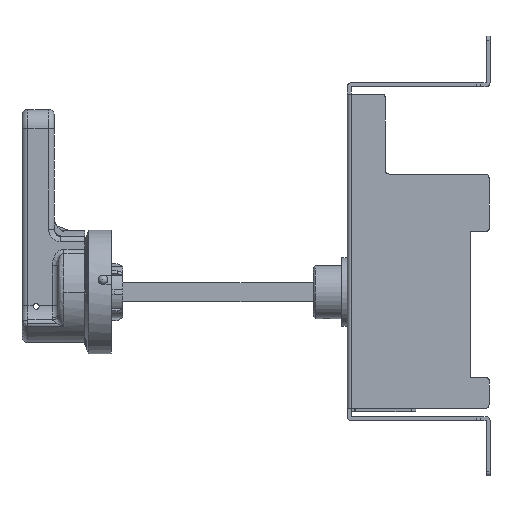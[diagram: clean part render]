
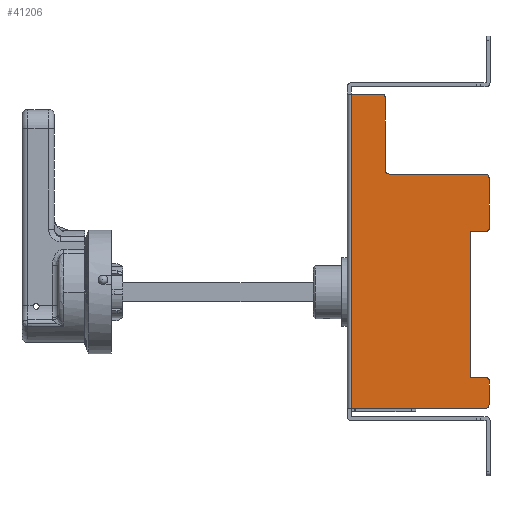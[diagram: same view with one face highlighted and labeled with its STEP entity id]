
A CAD part, left-side view. The second image highlights one B-rep face of the part: STEP entity #41206.
In plain terms, the highlighted planar face has unit normal (-1, 0, 0).
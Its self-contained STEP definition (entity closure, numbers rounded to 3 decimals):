
#48 = DIRECTION ( 'NONE',  ( -1., 0., 0. ) ) ;
#205 = LINE ( 'NONE', #5844, #14843 ) ;
#287 = CARTESIAN_POINT ( 'NONE',  ( -65.733, 55.395, -24.266 ) ) ;
#489 = CARTESIAN_POINT ( 'NONE',  ( -65.733, 65.395, 53.934 ) ) ;
#1196 = ORIENTED_EDGE ( 'NONE', *, *, #2043, .T. ) ;
#1232 = CARTESIAN_POINT ( 'NONE',  ( -65.733, 65.395, -23.266 ) ) ;
#1795 = VECTOR ( 'NONE', #11530, 1000. ) ;
#1844 = AXIS2_PLACEMENT_3D ( 'NONE', #28647, #10816, #23782 ) ;
#2043 = EDGE_CURVE ( 'NONE', #41134, #13601, #31372, .T. ) ;
#2194 = DIRECTION ( 'NONE',  ( 1., 0., 0. ) ) ;
#3037 = CARTESIAN_POINT ( 'NONE',  ( -65.733, 57.395, -39.266 ) ) ;
#3482 = CARTESIAN_POINT ( 'NONE',  ( -65.733, 107.895, 83.934 ) ) ;
#3658 = ORIENTED_EDGE ( 'NONE', *, *, #38445, .T. ) ;
#4425 = ORIENTED_EDGE ( 'NONE', *, *, #45647, .T. ) ;
#4443 = CARTESIAN_POINT ( 'NONE',  ( -65.733, 55.395, -39.266 ) ) ;
#5844 = CARTESIAN_POINT ( 'NONE',  ( -65.733, 55.395, -39.266 ) ) ;
#7267 = VECTOR ( 'NONE', #44374, 1000. ) ;
#7430 = CARTESIAN_POINT ( 'NONE',  ( -65.733, 55.395, -23.266 ) ) ;
#7611 = ORIENTED_EDGE ( 'NONE', *, *, #45710, .T. ) ;
#9010 = CARTESIAN_POINT ( 'NONE',  ( -65.733, 111.895, 125.934 ) ) ;
#9101 = CARTESIAN_POINT ( 'NONE',  ( -65.733, 55.395, -37.266 ) ) ;
#9269 = VECTOR ( 'NONE', #48607, 1000. ) ;
#9328 = CARTESIAN_POINT ( 'NONE',  ( -65.733, 57.395, 83.934 ) ) ;
#9342 = DIRECTION ( 'NONE',  ( 0., 1., 0. ) ) ;
#9359 = VERTEX_POINT ( 'NONE', #37085 ) ;
#9367 = CARTESIAN_POINT ( 'NONE',  ( -65.733, 109.895, 123.934 ) ) ;
#9804 = VERTEX_POINT ( 'NONE', #21083 ) ;
#9920 = ORIENTED_EDGE ( 'NONE', *, *, #17988, .T. ) ;
#10816 = DIRECTION ( 'NONE',  ( -1., 0., 0. ) ) ;
#11068 = EDGE_CURVE ( 'NONE', #19625, #13601, #31860, .T. ) ;
#11212 = EDGE_CURVE ( 'NONE', #40410, #41134, #21799, .T. ) ;
#11387 = EDGE_CURVE ( 'NONE', #20472, #37978, #205, .T. ) ;
#11530 = DIRECTION ( 'NONE',  ( 0., -1., 0. ) ) ;
#12207 = VECTOR ( 'NONE', #19150, 1000. ) ;
#12704 = DIRECTION ( 'NONE',  ( 0., 0., -1. ) ) ;
#13601 = VERTEX_POINT ( 'NONE', #9328 ) ;
#14397 = DIRECTION ( 'NONE',  ( -1., 0., 0. ) ) ;
#14843 = VECTOR ( 'NONE', #40838, 1000. ) ;
#14954 = VECTOR ( 'NONE', #25104, 1000. ) ;
#15520 = DIRECTION ( 'NONE',  ( 0., 1., 0. ) ) ;
#17988 = EDGE_CURVE ( 'NONE', #9804, #34192, #28466, .T. ) ;
#18612 = DIRECTION ( 'NONE',  ( -1., 0., 0. ) ) ;
#18780 = EDGE_CURVE ( 'NONE', #37978, #9359, #49141, .T. ) ;
#19150 = DIRECTION ( 'NONE',  ( 0., 1., 0. ) ) ;
#19625 = VERTEX_POINT ( 'NONE', #3482 ) ;
#20472 = VERTEX_POINT ( 'NONE', #9101 ) ;
#20774 = CARTESIAN_POINT ( 'NONE',  ( -65.733, 55.395, 53.934 ) ) ;
#21083 = CARTESIAN_POINT ( 'NONE',  ( -65.733, 127.895, 125.934 ) ) ;
#21543 = PLANE ( 'NONE',  #33324 ) ;
#21582 = VERTEX_POINT ( 'NONE', #35042 ) ;
#21799 = LINE ( 'NONE', #28276, #9269 ) ;
#21807 = DIRECTION ( 'NONE',  ( 0., 0., -1. ) ) ;
#22827 = CARTESIAN_POINT ( 'NONE',  ( -65.733, 55.395, 54.934 ) ) ;
#23782 = DIRECTION ( 'NONE',  ( 0., 0., -1. ) ) ;
#24023 = ORIENTED_EDGE ( 'NONE', *, *, #37078, .T. ) ;
#24109 = CARTESIAN_POINT ( 'NONE',  ( -65.733, 107.895, 85.934 ) ) ;
#24459 = EDGE_CURVE ( 'NONE', #34408, #44704, #31314, .T. ) ;
#24609 = ORIENTED_EDGE ( 'NONE', *, *, #11387, .T. ) ;
#25104 = DIRECTION ( 'NONE',  ( 0., 1., 0. ) ) ;
#25277 = AXIS2_PLACEMENT_3D ( 'NONE', #37440, #48, #27658 ) ;
#25481 = ORIENTED_EDGE ( 'NONE', *, *, #11068, .F. ) ;
#25721 = CARTESIAN_POINT ( 'NONE',  ( -65.733, 56.395, 54.934 ) ) ;
#25933 = DIRECTION ( 'NONE',  ( 0., 0., -1. ) ) ;
#26055 = CARTESIAN_POINT ( 'NONE',  ( -65.733, 56.395, 53.934 ) ) ;
#26381 = FACE_OUTER_BOUND ( 'NONE', #44225, .T. ) ;
#26559 = AXIS2_PLACEMENT_3D ( 'NONE', #25721, #14397, #42860 ) ;
#27658 = DIRECTION ( 'NONE',  ( 0., 0., -1. ) ) ;
#27692 = AXIS2_PLACEMENT_3D ( 'NONE', #24109, #2194, #31433 ) ;
#28100 = LINE ( 'NONE', #36220, #7267 ) ;
#28276 = CARTESIAN_POINT ( 'NONE',  ( -65.733, 55.395, -39.266 ) ) ;
#28396 = CARTESIAN_POINT ( 'NONE',  ( -65.733, 56.395, -24.266 ) ) ;
#28466 = LINE ( 'NONE', #39849, #49470 ) ;
#28647 = CARTESIAN_POINT ( 'NONE',  ( -65.733, 57.395, 81.934 ) ) ;
#29296 = CARTESIAN_POINT ( 'NONE',  ( -65.733, 55.395, -39.266 ) ) ;
#29995 = CARTESIAN_POINT ( 'NONE',  ( -65.733, 127.895, -39.266 ) ) ;
#30320 = CARTESIAN_POINT ( 'NONE',  ( -65.733, 55.395, 81.934 ) ) ;
#31314 = LINE ( 'NONE', #20774, #12207 ) ;
#31372 = CIRCLE ( 'NONE', #1844, 2. ) ;
#31433 = DIRECTION ( 'NONE',  ( 0., 0., -1. ) ) ;
#31860 = LINE ( 'NONE', #41604, #1795 ) ;
#32299 = EDGE_CURVE ( 'NONE', #19625, #21582, #43591, .T. ) ;
#32908 = DIRECTION ( 'NONE',  ( -1., 0., 0. ) ) ;
#33324 = AXIS2_PLACEMENT_3D ( 'NONE', #4443, #32908, #9342 ) ;
#33417 = VERTEX_POINT ( 'NONE', #9367 ) ;
#33606 = ORIENTED_EDGE ( 'NONE', *, *, #11212, .T. ) ;
#34192 = VERTEX_POINT ( 'NONE', #29995 ) ;
#34408 = VERTEX_POINT ( 'NONE', #26055 ) ;
#34685 = ORIENTED_EDGE ( 'NONE', *, *, #18780, .T. ) ;
#35042 = CARTESIAN_POINT ( 'NONE',  ( -65.733, 109.895, 85.934 ) ) ;
#35870 = DIRECTION ( 'NONE',  ( 0., -1., 0. ) ) ;
#36220 = CARTESIAN_POINT ( 'NONE',  ( -65.733, 109.895, 83.934 ) ) ;
#36322 = VERTEX_POINT ( 'NONE', #1232 ) ;
#36363 = ORIENTED_EDGE ( 'NONE', *, *, #40408, .F. ) ;
#36952 = ORIENTED_EDGE ( 'NONE', *, *, #44012, .F. ) ;
#37078 = EDGE_CURVE ( 'NONE', #37224, #9804, #40578, .T. ) ;
#37085 = CARTESIAN_POINT ( 'NONE',  ( -65.733, 56.395, -23.266 ) ) ;
#37224 = VERTEX_POINT ( 'NONE', #9010 ) ;
#37432 = LINE ( 'NONE', #29296, #46505 ) ;
#37440 = CARTESIAN_POINT ( 'NONE',  ( -65.733, 111.895, 123.934 ) ) ;
#37800 = CIRCLE ( 'NONE', #26559, 1. ) ;
#37978 = VERTEX_POINT ( 'NONE', #287 ) ;
#38014 = ORIENTED_EDGE ( 'NONE', *, *, #46109, .F. ) ;
#38332 = LINE ( 'NONE', #7430, #41474 ) ;
#38445 = EDGE_CURVE ( 'NONE', #33417, #37224, #40898, .T. ) ;
#38565 = ORIENTED_EDGE ( 'NONE', *, *, #24459, .F. ) ;
#39094 = CARTESIAN_POINT ( 'NONE',  ( -65.733, 65.395, 53.934 ) ) ;
#39668 = CARTESIAN_POINT ( 'NONE',  ( -65.733, 57.395, -37.266 ) ) ;
#39849 = CARTESIAN_POINT ( 'NONE',  ( -65.733, 127.895, -39.266 ) ) ;
#40020 = EDGE_CURVE ( 'NONE', #44704, #36322, #48475, .T. ) ;
#40408 = EDGE_CURVE ( 'NONE', #45054, #34192, #37432, .T. ) ;
#40410 = VERTEX_POINT ( 'NONE', #22827 ) ;
#40578 = LINE ( 'NONE', #47102, #14954 ) ;
#40675 = DIRECTION ( 'NONE',  ( 0., 0., -1. ) ) ;
#40838 = DIRECTION ( 'NONE',  ( 0., 0., 1. ) ) ;
#40898 = CIRCLE ( 'NONE', #25277, 2. ) ;
#41134 = VERTEX_POINT ( 'NONE', #30320 ) ;
#41206 = ADVANCED_FACE ( 'NONE', ( #26381 ), #21543, .T. ) ;
#41474 = VECTOR ( 'NONE', #35870, 1000. ) ;
#41604 = CARTESIAN_POINT ( 'NONE',  ( -65.733, 55.395, 83.934 ) ) ;
#42860 = DIRECTION ( 'NONE',  ( 0., 0., -1. ) ) ;
#43456 = ORIENTED_EDGE ( 'NONE', *, *, #32299, .T. ) ;
#43591 = CIRCLE ( 'NONE', #27692, 2. ) ;
#43749 = DIRECTION ( 'NONE',  ( -1., 0., 0. ) ) ;
#44012 = EDGE_CURVE ( 'NONE', #33417, #21582, #28100, .T. ) ;
#44225 = EDGE_LOOP ( 'NONE', ( #38565, #4425, #33606, #1196, #25481, #43456, #36952, #3658, #24023, #9920, #36363, #7611, #24609, #34685, #38014, #45231 ) ) ;
#44374 = DIRECTION ( 'NONE',  ( 0., 0., -1. ) ) ;
#44704 = VERTEX_POINT ( 'NONE', #39094 ) ;
#45054 = VERTEX_POINT ( 'NONE', #3037 ) ;
#45231 = ORIENTED_EDGE ( 'NONE', *, *, #40020, .F. ) ;
#45647 = EDGE_CURVE ( 'NONE', #34408, #40410, #37800, .T. ) ;
#45710 = EDGE_CURVE ( 'NONE', #45054, #20472, #50241, .T. ) ;
#46021 = AXIS2_PLACEMENT_3D ( 'NONE', #28396, #18612, #25933 ) ;
#46109 = EDGE_CURVE ( 'NONE', #36322, #9359, #38332, .T. ) ;
#46505 = VECTOR ( 'NONE', #15520, 1000. ) ;
#47000 = VECTOR ( 'NONE', #12704, 1000. ) ;
#47102 = CARTESIAN_POINT ( 'NONE',  ( -65.733, 55.395, 125.934 ) ) ;
#48475 = LINE ( 'NONE', #489, #47000 ) ;
#48607 = DIRECTION ( 'NONE',  ( 0., 0., 1. ) ) ;
#49141 = CIRCLE ( 'NONE', #46021, 1. ) ;
#49310 = AXIS2_PLACEMENT_3D ( 'NONE', #39668, #43749, #21807 ) ;
#49470 = VECTOR ( 'NONE', #40675, 1000. ) ;
#50241 = CIRCLE ( 'NONE', #49310, 2. ) ;
